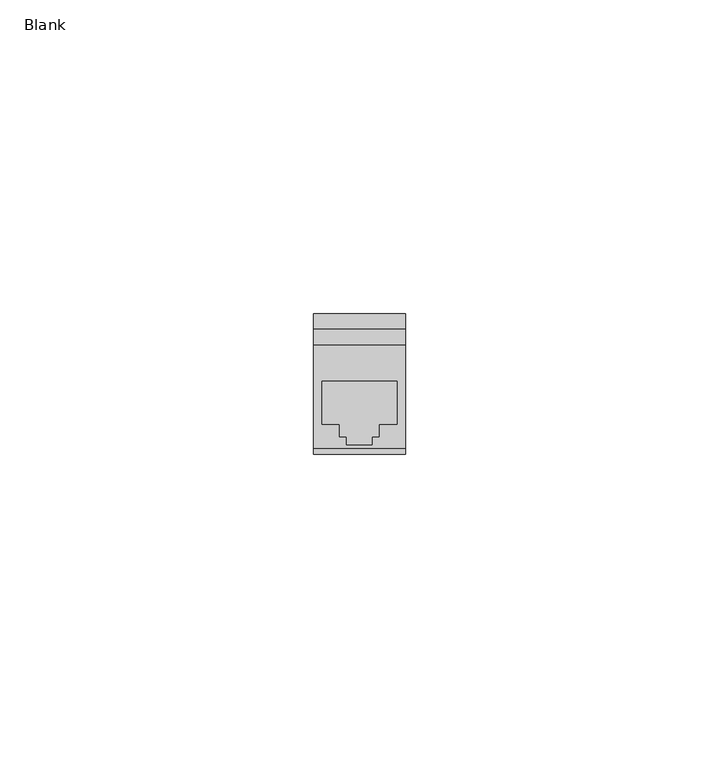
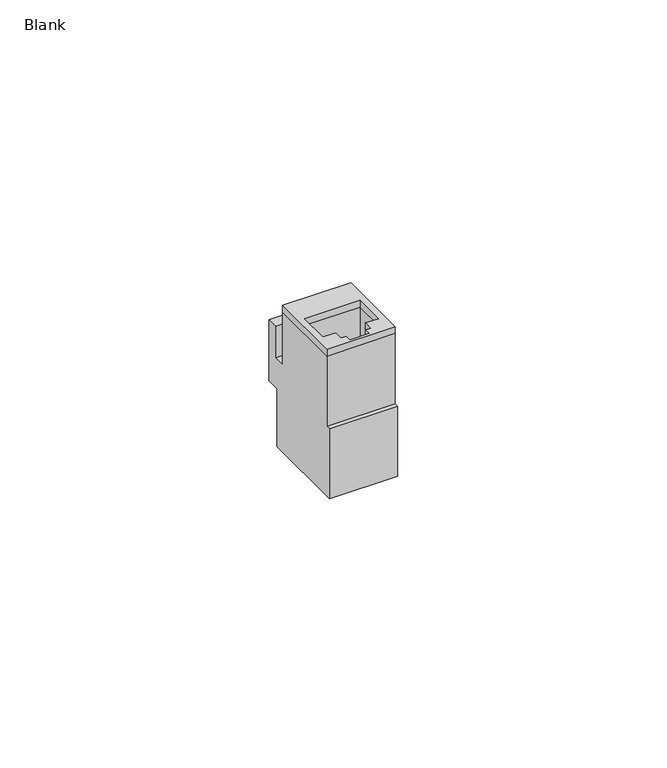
"""IFC4 building model written with IfcOpenShell, lengths in millimetres: electric appliance geometry, Data_Device-Network-Leviton-QuickPort-Connector-Copper-Atlas-X1 : Blank."""

from ifc_helpers import new_model, si_unit, frame, origin, place, context, project, spatial, polyline, outline, extrude, faceted_brep, source, transform, mapped, element, save


def blank_a4c7bff8(model_context):
    return source(origin(), model_context, "Body", "SolidModel", [
        extrude(outline(polyline([(7.3025, 16.383), (7.3025, 0.0), (-7.3025, 0.0), (-7.3025, 16.383), (7.3025, 16.383)]), holes=[polyline([(5.9563, 10.6426), (-5.9563, 10.6426), (-5.9563, 3.81), (-3.1496, 3.81), (-3.1496, 1.8288), (-2.032, 1.8288), (-2.032, 0.5588), (2.032, 0.5588), (2.032, 1.8288), (3.1496, 1.8288), (3.1496, 3.81), (5.9563, 3.81), (5.9563, 10.6426)])]), frame((0.0, 0.0, -1.524), z_axis=(0.0, 0.0, 1.0), x_axis=(1.0, 0.0, 0.0)), (0.0, 0.0, 1.0), 1.5494),
        faceted_brep([(7.3025, 0.0, -1.524), (7.3025, 0.0, -17.399), (7.3025, -0.9256355, -17.399), (7.3025, -0.9256355, -33.274), (7.3025, 18.422639, -33.274), (7.3025, 18.422639, -20.066), (7.3025, 21.406854, -20.066), (7.3025, 21.406854, -6.3246), (7.3025, 19.0409297, -6.3246), (7.3025, 19.0409297, -13.4366), (7.3025, 16.383, -13.4366), (7.3025, 16.383, -1.524), (-7.3025, 0.0, -1.524), (-7.3025, 16.383, -1.524), (-7.3025, 16.383, -13.4366), (-7.3025, 19.0409297, -13.4366), (-7.3025, 19.0409297, -6.3246), (-7.3025, 21.406854, -6.3246), (-7.3025, 21.406854, -20.066), (-7.3025, 18.422639, -20.066), (-7.3025, 18.422639, -33.274), (-7.3025, -0.9256355, -33.274), (-7.3025, -0.9256355, -17.399), (-7.3025, 0.0, -17.399), (-5.9563, 10.6426, -1.524), (5.9563, 10.6426, -1.524), (5.9563, 3.81, -1.524), (3.1496, 3.81, -1.524), (3.1496, 1.8288, -1.524), (2.032, 1.8288, -1.524), (2.032, 0.5588, -1.524), (-2.032, 0.5588, -1.524), (-2.032, 1.8288, -1.524), (-3.1496, 1.8288, -1.524), (-3.1496, 3.81, -1.524), (-5.9563, 3.81, -1.524), (5.9563, 10.6426, -9.525), (-5.9563, 10.6426, -9.525), (-5.9563, 3.81, -9.525), (-3.1496, 3.81, -9.525), (-3.1496, 1.8288, -9.525), (-2.032, 1.8288, -9.525), (-2.032, 0.5588, -9.525), (2.032, 0.5588, -9.525), (2.032, 1.8288, -9.525), (3.1496, 1.8288, -9.525), (3.1496, 3.81, -9.525), (5.9563, 3.81, -9.525)], [[[0, 1, 2, 3, 4, 5, 6, 7, 8, 9, 10, 11]], [[12, 13, 14, 15, 16, 17, 18, 19, 20, 21, 22, 23]], [[1, 0, 12, 23]], [[2, 1, 23, 22]], [[3, 2, 22, 21]], [[4, 3, 21, 20]], [[5, 4, 20, 19]], [[6, 5, 19, 18]], [[7, 6, 18, 17]], [[8, 7, 17, 16]], [[9, 8, 16, 15]], [[10, 9, 15, 14]], [[11, 10, 14, 13]], [[0, 11, 13, 12], [24, 25, 26, 27, 28, 29, 30, 31, 32, 33, 34, 35]], [[36, 37, 38, 39, 40, 41, 42, 43, 44, 45, 46, 47]], [[37, 36, 25, 24]], [[38, 37, 24, 35]], [[39, 38, 35, 34]], [[40, 39, 34, 33]], [[41, 40, 33, 32]], [[42, 41, 32, 31]], [[43, 42, 31, 30]], [[44, 43, 30, 29]], [[45, 44, 29, 28]], [[46, 45, 28, 27]], [[47, 46, 27, 26]], [[36, 47, 26, 25]]]),
    ])


if __name__ == "__main__":
    model = new_model("IFC4")
    model_context = context("Model", 3, world=origin())
    ifc_project = project(units=[si_unit("LENGTHUNIT", "METRE", prefix="MILLI")], contexts=[model_context])
    site = spatial("IfcSite", under=ifc_project)
    building = spatial("IfcBuilding", under=site)
    placement = place(None, origin())
    blank_shape = blank_a4c7bff8(model_context)
    element("IfcElectricAppliance", 1, ObjectType="Data_Device-Network-Leviton-QuickPort-Connector-Copper-Atlas-X1 : Blank", at=placement, inside=building, context=model_context, shape_type="MappedRepresentation", body=[
        mapped(blank_shape, transform((0.0, 0.0, 0.0), x_axis=(1.0, 0.0, 0.0), y_axis=(0.0, 1.0, 0.0), z_axis=(0.0, 0.0, 1.0))),
    ])
    save(model, "model.ifc")
